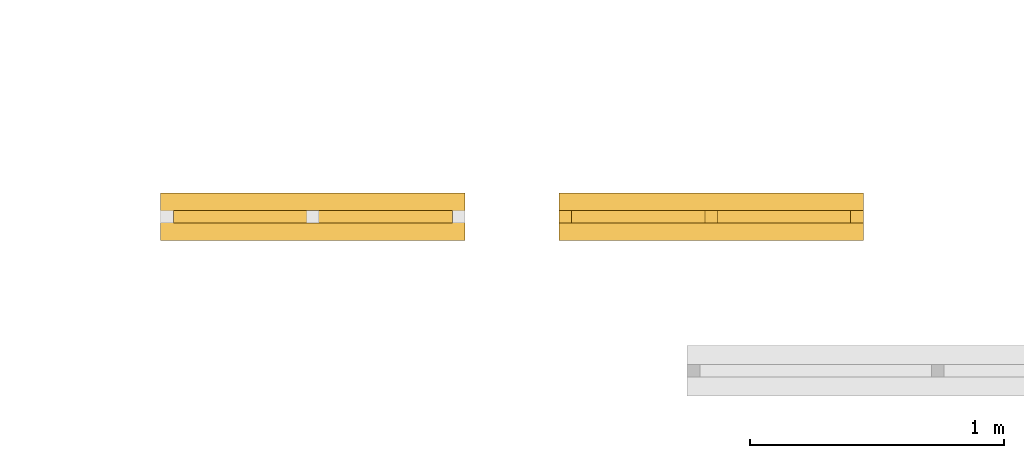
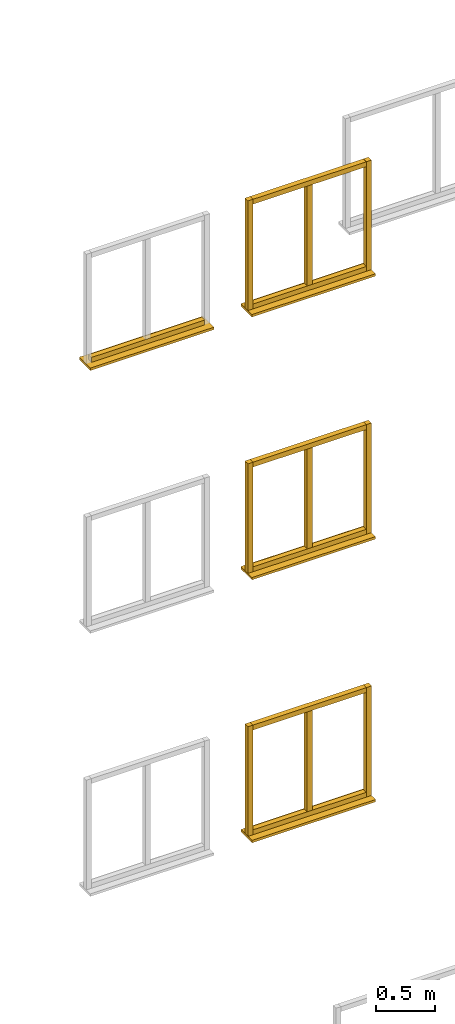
# Not in any storey, part 7 of 22: 20 windows.
"""IFC2X3 model written with IfcOpenShell, lengths in metres."""

from ifc_helpers import new_model, si_unit, frame, origin, place, context, project, faceted_brep, element, save


model = new_model("IFC2X3")

# Units and contexts
model_context = context("Model", 3, precision=1e-06, world=origin())
ifc_project = project(units=[si_unit("LENGTHUNIT", "METRE"), si_unit("PLANEANGLEUNIT", "RADIAN")], contexts=[model_context])

# Windows
placement = place(None, origin())
for number, where, z_axis, x_axis, name in (
    (1, (29.90000054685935, -0.09833720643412, 9.125000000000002), (0.0, 0.0, 1.0), (1.0, 0.0, 0.0), "leftFrame"),
    (2, (31.050000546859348, -0.09833720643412, 6.425000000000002), (0.0, 0.0, 1.0), (1.0, 0.0, 0.0), "rightFrame"),
):
    element("IfcWindow", number, at=place(placement, frame(where, z_axis=z_axis, x_axis=x_axis)), Name=name, context=model_context, shape_type="Brep", body=[
        faceted_brep([(0.0, 0.05, 0.0), (0.05, 0.05, 0.0), (0.05, 0.0, 0.0), (0.0, 0.0, 0.0), (0.05, 0.0, 1.125), (0.05, 0.05, 1.125), (0.0, 0.05, 1.125), (0.0, 0.0, 1.125), (0.0, 0.05, 0.0), (0.0, 0.0, 0.0), (0.0, 0.0, 1.125), (0.0, 0.05, 1.125), (0.05, 0.05, 0.0), (0.0, 0.05, 0.0), (0.0, 0.05, 1.125), (0.05, 0.05, 1.125), (0.05, 0.0, 0.0), (0.05, 0.05, 0.0), (0.05, 0.05, 1.125), (0.05, 0.0, 1.125), (0.0, 0.0, 0.0), (0.05, 0.0, 0.0), (0.05, 0.0, 1.125), (0.0, 0.0, 1.125)], [[[0, 1, 2, 3]], [[4, 5, 6, 7]], [[8, 9, 10, 11]], [[12, 13, 14, 15]], [[16, 17, 18, 19]], [[20, 21, 22, 23]]]),
    ])
window_1_placement = place(placement, frame((29.90000054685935, -0.16683720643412, 6.400000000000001), z_axis=(0.0, 0.0, 1.0), x_axis=(1.0, 0.0, 0.0)))
element("IfcWindow", 3, at=window_1_placement, Name="windowSill", context=model_context, shape_type="Brep", body=[
    faceted_brep([(0.0, 0.187, 0.0), (1.2, 0.187, 0.0), (1.2, 0.0, 0.0), (0.0, 0.0, 0.0), (1.2, 0.0, 0.025), (1.2, 0.187, 0.025), (0.0, 0.187, 0.025), (0.0, 0.0, 0.025), (0.0, 0.187, 0.0), (0.0, 0.0, 0.0), (0.0, 0.0, 0.025), (0.0, 0.187, 0.025), (1.2, 0.187, 0.0), (0.0, 0.187, 0.0), (0.0, 0.187, 0.025), (1.2, 0.187, 0.025), (1.2, 0.0, 0.0), (1.2, 0.187, 0.0), (1.2, 0.187, 0.025), (1.2, 0.0, 0.025), (0.0, 0.0, 0.0), (1.2, 0.0, 0.0), (1.2, 0.0, 0.025), (0.0, 0.0, 0.025)], [[[0, 1, 2, 3]], [[4, 5, 6, 7]], [[8, 9, 10, 11]], [[12, 13, 14, 15]], [[16, 17, 18, 19]], [[20, 21, 22, 23]]]),
])
window_2_placement = place(placement, frame((30.47500054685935, -0.09833720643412, 6.475000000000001), z_axis=(0.0, 0.0, 1.0), x_axis=(1.0, 0.0, 0.0)))
element("IfcWindow", 4, at=window_2_placement, Name="verticalBar", context=model_context, shape_type="Brep", body=[
    faceted_brep([(0.0, 0.05, 0.0), (0.05, 0.05, 0.0), (0.05, 0.0, 0.0), (0.0, 0.0, 0.0), (0.05, 0.0, 1.025), (0.05, 0.05, 1.025), (0.0, 0.05, 1.025), (0.0, 0.0, 1.025), (0.0, 0.05, 0.0), (0.0, 0.0, 0.0), (0.0, 0.0, 1.025), (0.0, 0.05, 1.025), (0.05, 0.05, 0.0), (0.0, 0.05, 0.0), (0.0, 0.05, 1.025), (0.05, 0.05, 1.025), (0.05, 0.0, 0.0), (0.05, 0.05, 0.0), (0.05, 0.05, 1.025), (0.05, 0.0, 1.025), (0.0, 0.0, 0.0), (0.05, 0.0, 0.0), (0.05, 0.0, 1.025), (0.0, 0.0, 1.025)], [[[0, 1, 2, 3]], [[4, 5, 6, 7]], [[8, 9, 10, 11]], [[12, 13, 14, 15]], [[16, 17, 18, 19]], [[20, 21, 22, 23]]]),
])
for number, where, z_axis, x_axis, name in (
    (5, (29.90000054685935, -0.09833720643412, 6.425000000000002), (0.0, 0.0, 1.0), (1.0, 0.0, 0.0), "leftFrame"),
    (6, (29.90000054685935, -0.09833720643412, 3.725000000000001), (0.0, 0.0, 1.0), (1.0, 0.0, 0.0), "leftFrame"),
):
    element("IfcWindow", number, at=place(placement, frame(where, z_axis=z_axis, x_axis=x_axis)), Name=name, context=model_context, shape_type="Brep", body=[
        faceted_brep([(0.0, 0.05, 0.0), (0.05, 0.05, 0.0), (0.05, 0.0, 0.0), (0.0, 0.0, 0.0), (0.05, 0.0, 1.125), (0.05, 0.05, 1.125), (0.0, 0.05, 1.125), (0.0, 0.0, 1.125), (0.0, 0.05, 0.0), (0.0, 0.0, 0.0), (0.0, 0.0, 1.125), (0.0, 0.05, 1.125), (0.05, 0.05, 0.0), (0.0, 0.05, 0.0), (0.0, 0.05, 1.125), (0.05, 0.05, 1.125), (0.05, 0.0, 0.0), (0.05, 0.05, 0.0), (0.05, 0.05, 1.125), (0.05, 0.0, 1.125), (0.0, 0.0, 0.0), (0.05, 0.0, 0.0), (0.05, 0.0, 1.125), (0.0, 0.0, 1.125)], [[[0, 1, 2, 3]], [[4, 5, 6, 7]], [[8, 9, 10, 11]], [[12, 13, 14, 15]], [[16, 17, 18, 19]], [[20, 21, 22, 23]]]),
    ])
window_3_placement = place(placement, frame((29.90000054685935, -0.16683720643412, 3.700000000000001), z_axis=(0.0, 0.0, 1.0), x_axis=(1.0, 0.0, 0.0)))
element("IfcWindow", 7, at=window_3_placement, Name="windowSill", context=model_context, shape_type="Brep", body=[
    faceted_brep([(0.0, 0.187, 0.0), (1.2, 0.187, 0.0), (1.2, 0.0, 0.0), (0.0, 0.0, 0.0), (1.2, 0.0, 0.025), (1.2, 0.187, 0.025), (0.0, 0.187, 0.025), (0.0, 0.0, 0.025), (0.0, 0.187, 0.0), (0.0, 0.0, 0.0), (0.0, 0.0, 0.025), (0.0, 0.187, 0.025), (1.2, 0.187, 0.0), (0.0, 0.187, 0.0), (0.0, 0.187, 0.025), (1.2, 0.187, 0.025), (1.2, 0.0, 0.0), (1.2, 0.187, 0.0), (1.2, 0.187, 0.025), (1.2, 0.0, 0.025), (0.0, 0.0, 0.0), (1.2, 0.0, 0.0), (1.2, 0.0, 0.025), (0.0, 0.0, 0.025)], [[[0, 1, 2, 3]], [[4, 5, 6, 7]], [[8, 9, 10, 11]], [[12, 13, 14, 15]], [[16, 17, 18, 19]], [[20, 21, 22, 23]]]),
])
window_4_placement = place(placement, frame((30.47500054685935, -0.09833720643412, 3.775000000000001), z_axis=(0.0, 0.0, 1.0), x_axis=(1.0, 0.0, 0.0)))
element("IfcWindow", 8, at=window_4_placement, Name="verticalBar", context=model_context, shape_type="Brep", body=[
    faceted_brep([(0.0, 0.05, 0.0), (0.05, 0.05, 0.0), (0.05, 0.0, 0.0), (0.0, 0.0, 0.0), (0.05, 0.0, 1.025), (0.05, 0.05, 1.025), (0.0, 0.05, 1.025), (0.0, 0.0, 1.025), (0.0, 0.05, 0.0), (0.0, 0.0, 0.0), (0.0, 0.0, 1.025), (0.0, 0.05, 1.025), (0.05, 0.05, 0.0), (0.0, 0.05, 0.0), (0.0, 0.05, 1.025), (0.05, 0.05, 1.025), (0.05, 0.0, 0.0), (0.05, 0.05, 0.0), (0.05, 0.05, 1.025), (0.05, 0.0, 1.025), (0.0, 0.0, 0.0), (0.05, 0.0, 0.0), (0.05, 0.0, 1.025), (0.0, 0.0, 1.025)], [[[0, 1, 2, 3]], [[4, 5, 6, 7]], [[8, 9, 10, 11]], [[12, 13, 14, 15]], [[16, 17, 18, 19]], [[20, 21, 22, 23]]]),
])
window_5_placement = place(placement, frame((31.050000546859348, -0.09833720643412, 3.725000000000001), z_axis=(0.0, 0.0, 1.0), x_axis=(1.0, 0.0, 0.0)))
element("IfcWindow", 9, at=window_5_placement, Name="rightFrame", context=model_context, shape_type="Brep", body=[
    faceted_brep([(0.0, 0.05, 0.0), (0.05, 0.05, 0.0), (0.05, 0.0, 0.0), (0.0, 0.0, 0.0), (0.05, 0.0, 1.125), (0.05, 0.05, 1.125), (0.0, 0.05, 1.125), (0.0, 0.0, 1.125), (0.0, 0.05, 0.0), (0.0, 0.0, 0.0), (0.0, 0.0, 1.125), (0.0, 0.05, 1.125), (0.05, 0.05, 0.0), (0.0, 0.05, 0.0), (0.0, 0.05, 1.125), (0.05, 0.05, 1.125), (0.05, 0.0, 0.0), (0.05, 0.05, 0.0), (0.05, 0.05, 1.125), (0.05, 0.0, 1.125), (0.0, 0.0, 0.0), (0.05, 0.0, 0.0), (0.05, 0.0, 1.125), (0.0, 0.0, 1.125)], [[[0, 1, 2, 3]], [[4, 5, 6, 7]], [[8, 9, 10, 11]], [[12, 13, 14, 15]], [[16, 17, 18, 19]], [[20, 21, 22, 23]]]),
])
for number, where, z_axis, x_axis, name in (
    (10, (29.95000054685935, -0.09833720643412, 4.800000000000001), (0.0, 0.0, 1.0), (1.0, 0.0, 0.0), "topFrame"),
    (11, (29.95000054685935, -0.09833720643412, 3.725000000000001), (0.0, 0.0, 1.0), (1.0, 0.0, 0.0), "bottomFrame"),
    (12, (28.380000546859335, -0.09833720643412, 9.125000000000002), (0.0, 0.0, 1.0), (1.0, 0.0, 0.0), "bottomFrame"),
):
    element("IfcWindow", number, at=place(placement, frame(where, z_axis=z_axis, x_axis=x_axis)), Name=name, context=model_context, shape_type="Brep", body=[
        faceted_brep([(0.0, 0.05, 0.0), (1.1, 0.05, 0.0), (1.1, 0.0, 0.0), (0.0, 0.0, 0.0), (1.1, 0.0, 0.05), (1.1, 0.05, 0.05), (0.0, 0.05, 0.05), (0.0, 0.0, 0.05), (0.0, 0.05, 0.0), (0.0, 0.0, 0.0), (0.0, 0.0, 0.05), (0.0, 0.05, 0.05), (1.1, 0.05, 0.0), (0.0, 0.05, 0.0), (0.0, 0.05, 0.05), (1.1, 0.05, 0.05), (1.1, 0.0, 0.0), (1.1, 0.05, 0.0), (1.1, 0.05, 0.05), (1.1, 0.0, 0.05), (0.0, 0.0, 0.0), (1.1, 0.0, 0.0), (1.1, 0.0, 0.05), (0.0, 0.0, 0.05)], [[[0, 1, 2, 3]], [[4, 5, 6, 7]], [[8, 9, 10, 11]], [[12, 13, 14, 15]], [[16, 17, 18, 19]], [[20, 21, 22, 23]]]),
    ])
window_6_placement = place(placement, frame((28.330000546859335, -0.16683720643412, 9.100000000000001), z_axis=(0.0, 0.0, 1.0), x_axis=(1.0, 0.0, 0.0)))
element("IfcWindow", 13, at=window_6_placement, Name="windowSill", context=model_context, shape_type="Brep", body=[
    faceted_brep([(0.0, 0.187, 0.0), (1.2, 0.187, 0.0), (1.2, 0.0, 0.0), (0.0, 0.0, 0.0), (1.2, 0.0, 0.025), (1.2, 0.187, 0.025), (0.0, 0.187, 0.025), (0.0, 0.0, 0.025), (0.0, 0.187, 0.0), (0.0, 0.0, 0.0), (0.0, 0.0, 0.025), (0.0, 0.187, 0.025), (1.2, 0.187, 0.0), (0.0, 0.187, 0.0), (0.0, 0.187, 0.025), (1.2, 0.187, 0.025), (1.2, 0.0, 0.0), (1.2, 0.187, 0.0), (1.2, 0.187, 0.025), (1.2, 0.0, 0.025), (0.0, 0.0, 0.0), (1.2, 0.0, 0.0), (1.2, 0.0, 0.025), (0.0, 0.0, 0.025)], [[[0, 1, 2, 3]], [[4, 5, 6, 7]], [[8, 9, 10, 11]], [[12, 13, 14, 15]], [[16, 17, 18, 19]], [[20, 21, 22, 23]]]),
])
window_7_placement = place(placement, frame((30.47500054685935, -0.09833720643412, 9.175), z_axis=(0.0, 0.0, 1.0), x_axis=(1.0, 0.0, 0.0)))
element("IfcWindow", 14, at=window_7_placement, Name="verticalBar", context=model_context, shape_type="Brep", body=[
    faceted_brep([(0.0, 0.05, 0.0), (0.05, 0.05, 0.0), (0.05, 0.0, 0.0), (0.0, 0.0, 0.0), (0.05, 0.0, 1.025), (0.05, 0.05, 1.025), (0.0, 0.05, 1.025), (0.0, 0.0, 1.025), (0.0, 0.05, 0.0), (0.0, 0.0, 0.0), (0.0, 0.0, 1.025), (0.0, 0.05, 1.025), (0.05, 0.05, 0.0), (0.0, 0.05, 0.0), (0.0, 0.05, 1.025), (0.05, 0.05, 1.025), (0.05, 0.0, 0.0), (0.05, 0.05, 0.0), (0.05, 0.05, 1.025), (0.05, 0.0, 1.025), (0.0, 0.0, 0.0), (0.05, 0.0, 0.0), (0.05, 0.0, 1.025), (0.0, 0.0, 1.025)], [[[0, 1, 2, 3]], [[4, 5, 6, 7]], [[8, 9, 10, 11]], [[12, 13, 14, 15]], [[16, 17, 18, 19]], [[20, 21, 22, 23]]]),
])
window_8_placement = place(placement, frame((29.90000054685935, -0.16683720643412, 9.100000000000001), z_axis=(0.0, 0.0, 1.0), x_axis=(1.0, 0.0, 0.0)))
element("IfcWindow", 15, at=window_8_placement, Name="windowSill", context=model_context, shape_type="Brep", body=[
    faceted_brep([(0.0, 0.187, 0.0), (1.2, 0.187, 0.0), (1.2, 0.0, 0.0), (0.0, 0.0, 0.0), (1.2, 0.0, 0.025), (1.2, 0.187, 0.025), (0.0, 0.187, 0.025), (0.0, 0.0, 0.025), (0.0, 0.187, 0.0), (0.0, 0.0, 0.0), (0.0, 0.0, 0.025), (0.0, 0.187, 0.025), (1.2, 0.187, 0.0), (0.0, 0.187, 0.0), (0.0, 0.187, 0.025), (1.2, 0.187, 0.025), (1.2, 0.0, 0.0), (1.2, 0.187, 0.0), (1.2, 0.187, 0.025), (1.2, 0.0, 0.025), (0.0, 0.0, 0.0), (1.2, 0.0, 0.0), (1.2, 0.0, 0.025), (0.0, 0.0, 0.025)], [[[0, 1, 2, 3]], [[4, 5, 6, 7]], [[8, 9, 10, 11]], [[12, 13, 14, 15]], [[16, 17, 18, 19]], [[20, 21, 22, 23]]]),
])
window_9_placement = place(placement, frame((31.050000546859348, -0.09833720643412, 9.125000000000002), z_axis=(0.0, 0.0, 1.0), x_axis=(1.0, 0.0, 0.0)))
element("IfcWindow", 16, at=window_9_placement, Name="rightFrame", context=model_context, shape_type="Brep", body=[
    faceted_brep([(0.0, 0.05, 0.0), (0.05, 0.05, 0.0), (0.05, 0.0, 0.0), (0.0, 0.0, 0.0), (0.05, 0.0, 1.125), (0.05, 0.05, 1.125), (0.0, 0.05, 1.125), (0.0, 0.0, 1.125), (0.0, 0.05, 0.0), (0.0, 0.0, 0.0), (0.0, 0.0, 1.125), (0.0, 0.05, 1.125), (0.05, 0.05, 0.0), (0.0, 0.05, 0.0), (0.0, 0.05, 1.125), (0.05, 0.05, 1.125), (0.05, 0.0, 0.0), (0.05, 0.05, 0.0), (0.05, 0.05, 1.125), (0.05, 0.0, 1.125), (0.0, 0.0, 0.0), (0.05, 0.0, 0.0), (0.05, 0.0, 1.125), (0.0, 0.0, 1.125)], [[[0, 1, 2, 3]], [[4, 5, 6, 7]], [[8, 9, 10, 11]], [[12, 13, 14, 15]], [[16, 17, 18, 19]], [[20, 21, 22, 23]]]),
])
for number, where, z_axis, x_axis, name in (
    (17, (29.95000054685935, -0.09833720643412, 10.200000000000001), (0.0, 0.0, 1.0), (1.0, 0.0, 0.0), "topFrame"),
    (18, (29.95000054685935, -0.09833720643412, 9.125000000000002), (0.0, 0.0, 1.0), (1.0, 0.0, 0.0), "bottomFrame"),
    (19, (29.95000054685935, -0.09833720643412, 6.425000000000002), (0.0, 0.0, 1.0), (1.0, 0.0, 0.0), "bottomFrame"),
    (20, (29.95000054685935, -0.09833720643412, 7.500000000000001), (0.0, 0.0, 1.0), (1.0, 0.0, 0.0), "topFrame"),
):
    element("IfcWindow", number, at=place(placement, frame(where, z_axis=z_axis, x_axis=x_axis)), Name=name, context=model_context, shape_type="Brep", body=[
        faceted_brep([(0.0, 0.05, 0.0), (1.1, 0.05, 0.0), (1.1, 0.0, 0.0), (0.0, 0.0, 0.0), (1.1, 0.0, 0.05), (1.1, 0.05, 0.05), (0.0, 0.05, 0.05), (0.0, 0.0, 0.05), (0.0, 0.05, 0.0), (0.0, 0.0, 0.0), (0.0, 0.0, 0.05), (0.0, 0.05, 0.05), (1.1, 0.05, 0.0), (0.0, 0.05, 0.0), (0.0, 0.05, 0.05), (1.1, 0.05, 0.05), (1.1, 0.0, 0.0), (1.1, 0.05, 0.0), (1.1, 0.05, 0.05), (1.1, 0.0, 0.05), (0.0, 0.0, 0.0), (1.1, 0.0, 0.0), (1.1, 0.0, 0.05), (0.0, 0.0, 0.05)], [[[0, 1, 2, 3]], [[4, 5, 6, 7]], [[8, 9, 10, 11]], [[12, 13, 14, 15]], [[16, 17, 18, 19]], [[20, 21, 22, 23]]]),
    ])

save(model, "model.ifc")
